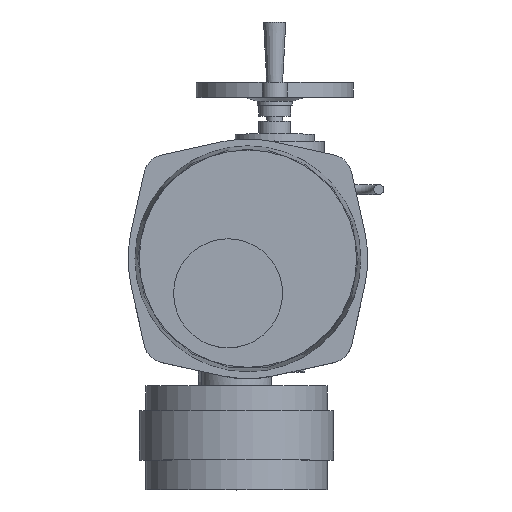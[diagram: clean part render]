
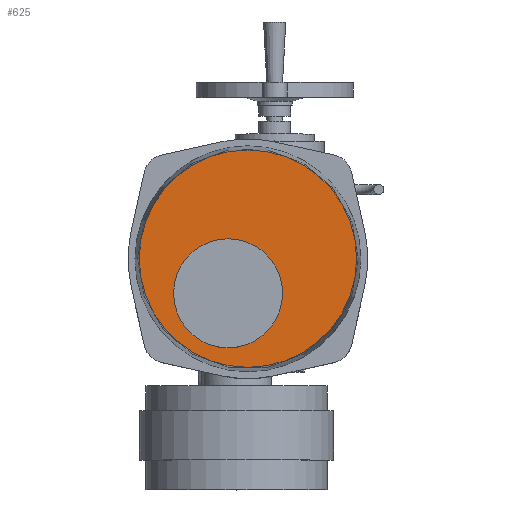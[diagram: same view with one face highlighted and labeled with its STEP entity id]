
A CAD part, top view. The second image highlights one B-rep face of the part: STEP entity #625.
In plain terms, the highlighted planar face has unit normal (0, 0, 1).
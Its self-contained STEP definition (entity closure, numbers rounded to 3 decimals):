
#625=ADVANCED_FACE('',(#8413,#8415),#8417,.T.);
#8413=FACE_BOUND('',#8414,.T.);
#8414=EDGE_LOOP('',(#14481));
#8415=FACE_BOUND('',#8416,.T.);
#8416=EDGE_LOOP('',(#14482));
#8417=PLANE('',#8418);
#8418=AXIS2_PLACEMENT_3D('',#8419,#8420,#8421);
#8419=CARTESIAN_POINT('',(20.,38.,544.));
#8420=DIRECTION('',(0.,0.,1.));
#8421=DIRECTION('',(-1.,0.,0.));
#14481=ORIENTED_EDGE('',*,*,#19252,.T.);
#14482=ORIENTED_EDGE('',*,*,#19255,.F.);
#19252=EDGE_CURVE('',#21833,#21833,#21834,.T.);
#19255=EDGE_CURVE('',#21839,#21839,#21840,.T.);
#21833=VERTEX_POINT('',#27017);
#21834=CIRCLE('',#27018,109.703);
#21839=VERTEX_POINT('',#27032);
#21840=CIRCLE('',#27033,55.);
#27017=CARTESIAN_POINT('',(-89.703,38.,544.));
#27018=AXIS2_PLACEMENT_3D('',#27019,#27020,#27021);
#27019=CARTESIAN_POINT('',(20.,38.,544.));
#27020=DIRECTION('',(0.,0.,1.));
#27021=DIRECTION('',(-1.,0.,0.));
#27032=CARTESIAN_POINT('',(-55.,3.,544.));
#27033=AXIS2_PLACEMENT_3D('',#27034,#27035,#27036);
#27034=CARTESIAN_POINT('',(0.,3.,544.));
#27035=DIRECTION('',(0.,0.,1.));
#27036=DIRECTION('',(-1.,0.,0.));
